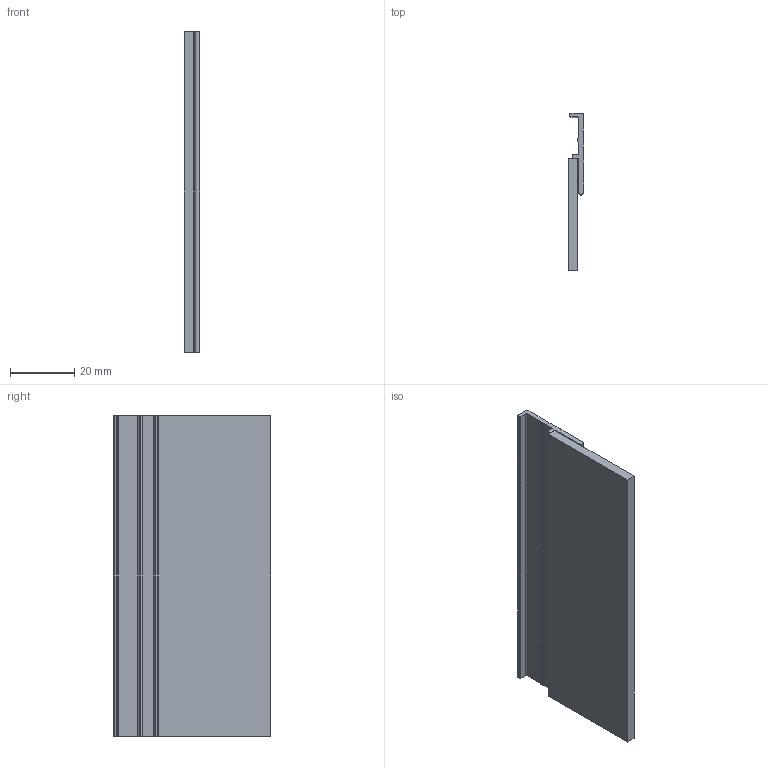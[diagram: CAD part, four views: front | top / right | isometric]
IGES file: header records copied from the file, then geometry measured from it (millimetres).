
Global section: file name: No Iges File Name specified; native system: Autodesk Inventor 2012; preprocessor: AutoDesk Inventor Iges Exporter R2012; author: anna.b; date: 20130822.111835; units: millimetre
Bounding box: 4.69 x 49 x 100 mm (x, y, z)
Volume: 14726 mm3; surface area: 14488 mm2
Topology: 2 solids, 2 shells, 89 faces, 255 edges, 170 vertices
Faces by surface type: plane 62, cylinder 24, revolution 3
